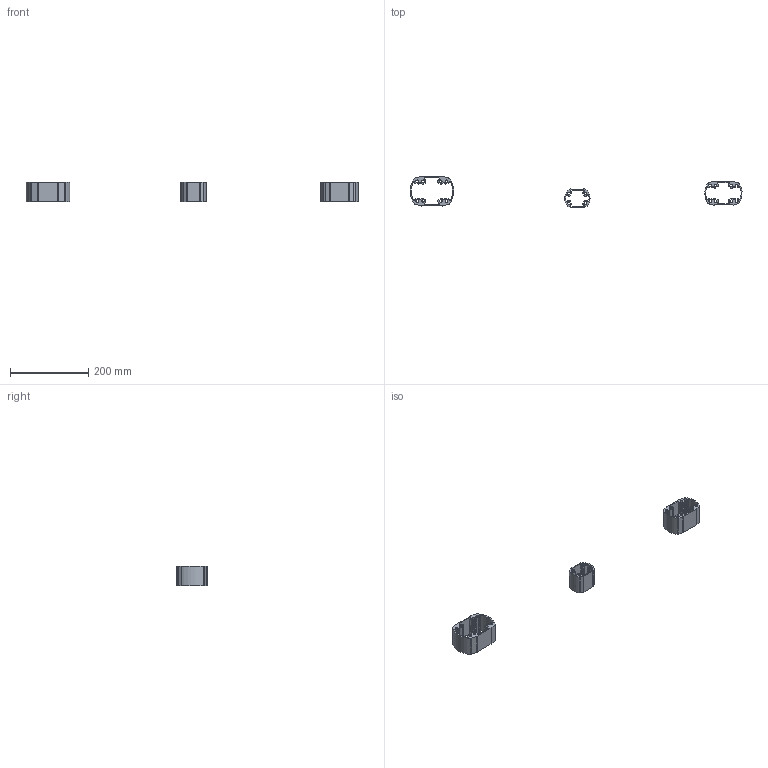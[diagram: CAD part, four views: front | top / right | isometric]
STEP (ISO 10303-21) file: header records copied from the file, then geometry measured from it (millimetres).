
FILE_DESCRIPTION(/* description */ (''),/* implementation_level */ '2;1');
FILE_NAME(/* name */ '3-24-1.stp',/* time_stamp */ '2025-03-24T19:52:05+08:00',/* author */ (''),/* organization */ (''),/* preprocessor_version */ 'ST-DEVELOPER v11',/* originating_system */ 'SIEMENS PLM Software NX 7.0',/* authorisation */ '');
FILE_SCHEMA (('AUTOMOTIVE_DESIGN { 1 0 10303 214 1 1 1 1 }'));
Length unit declared in the file: millimetre
Products named in the file (1): PCF2A5mh69
Bounding box: 848.41 x 80.91 x 50 mm (x, y, z)
Volume: 218524.6 mm3; surface area: 112769.7 mm2
Topology: 3 solids, 3 shells, 312 faces, 918 edges, 612 vertices
Faces by surface type: cylinder 156, plane 156
Entity records: 10396 total; most frequent: CARTESIAN_POINT 2143, ORIENTED_EDGE 1836, DIRECTION 1644, EDGE_CURVE 918, AXIS2_PLACEMENT_3D 625, VERTEX_POINT 612, LINE 394, VECTOR 394
